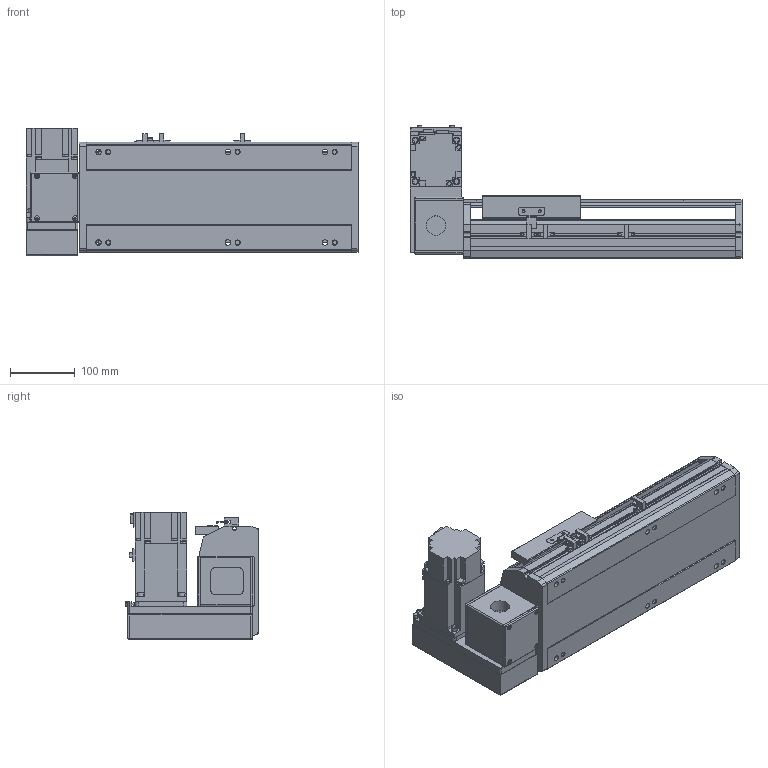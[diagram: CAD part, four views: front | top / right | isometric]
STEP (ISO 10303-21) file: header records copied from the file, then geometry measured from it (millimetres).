
FILE_DESCRIPTION(/* description */ ('STEP AP214'),/* implementation_level */ '2;1');
FILE_NAME(/* name */ 'PBS170-P40-S150-LU-T75-C1-N(0)',/* time_stamp */ '2022-06-07T10:13:51+02:00',/* author */ ('License CC BY-ND 4.0'),/* organization */ ('CADENAS'),/* preprocessor_version */ 'ST-DEVELOPER v18.102',/* originating_system */ 'PARTsolutions',/* authorisation */ ' ');
FILE_SCHEMA (('FEATURE_BASED_PROCESS_PLANNING','AUTOMOTIVE_DESIGN {1 0 10303 214 3 1 1}'));
Length unit declared in the file: millimetre
Products named in the file (7): PBS170-P40-S150-LU-T75-C1-N(0); PBS170_sensor; PBS170_plant; PBS170_sliser; T75-p1; PBS170T-LU_motors; PBS170-S150()_body
Assembly tree (8 placements, depth 2):
  PBS170-P40-S150-LU-T75-C1-N(0)
    PBS170_sensor  x3
    PBS170_plant
    PBS170_sliser
    T75-p1
    PBS170T-LU_motors
    PBS170-S150()_body
Bounding box: 513 x 206 x 197.3 mm (x, y, z)
Volume: 4934499.5 mm3; surface area: 709228.3 mm2
Topology: 8 solids, 8 shells, 1002 faces, 2675 edges, 1744 vertices
Faces by surface type: plane 657, cylinder 299, cone 36, sphere 8, torus 2
Full cylindrical faces by diameter (mm): 3.242 x4, 4 x2, 4.4 x4, 4.5 x6, 4.917 x4, 6 x9, 6.647 x14, 7 x2, 7.5 x4, 8 x8, 8.5 x6, 10 x4, 10.5 x6, 11 x2, 30 x2, 40 x1, 70 x1
Entity records: 28828 total; most frequent: CARTESIAN_POINT 5153, DIRECTION 4950, ORIENTED_EDGE 4728, EDGE_CURVE 2364, AXIS2_PLACEMENT_3D 1687, VERTEX_POINT 1610, LINE 1576, VECTOR 1576
